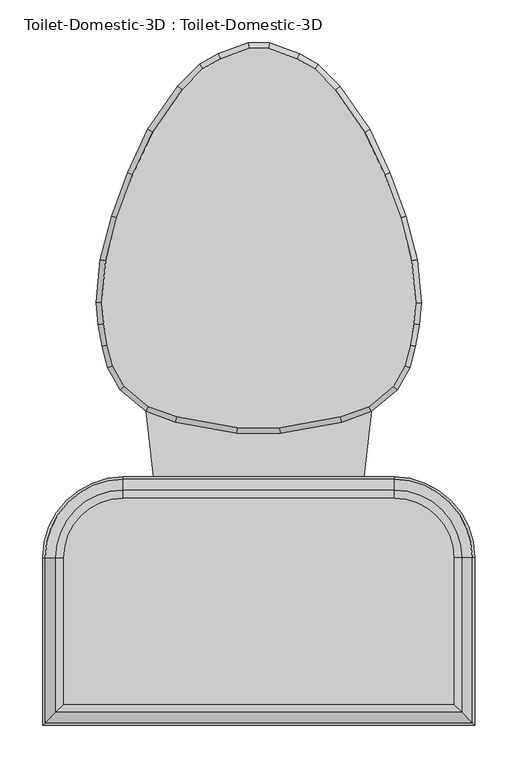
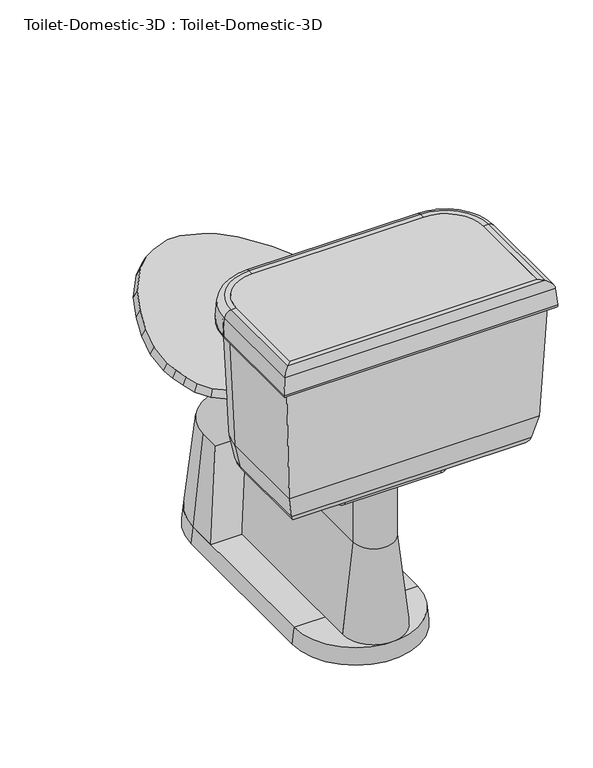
"""IFC4 building model written with IfcOpenShell, lengths in millimetres: flow terminal geometry, Toilet-Domestic-3D : Toilet-Domestic-3D."""

from ifc_helpers import new_model, si_unit, point, frame, frame_2d, origin, place, context, project, spatial, polyline, circle_curve, ellipse_curve, trimmed, segment, composite_curve, outline, extrude, faceted_brep, source, transform, mapped, element, save
from ifc_brep_helpers import plane_surface, cylinder_surface, revolved_surface, advanced_brep


def toilet_domestic_3d_toilet_domestic_3d_d5d88465(model_context):
    return source(origin(), model_context, "Body", "SolidModel", [
        advanced_brep(
        [(-117.7636364, -285.75, 0.0), (-114.3, -285.75, 31.75), (-38.1, -285.75, 31.75), (-38.1, -285.75, 0.0), (117.7636364, -285.75, 0.0), (38.1, -285.75, 0.0), (38.1, -285.75, 31.75), (114.3, -285.75, 31.75)],
        [
            (0, 1),
            (1, 2),
            (2, 3),
            (3, 0),
            (4, 5),
            (5, 6),
            (6, 7),
            (7, 4),
            (4, 0, circle_curve(frame((0.0, -285.75, 0.0), z_axis=(0.0, 0.0, -1.0), x_axis=(-1.0, 0.0, 0.0)), 117.7636364)),
            (3, 5, circle_curve(frame((0.0, -285.75, 0.0), z_axis=(0.0, 0.0, 1.0), x_axis=(-1.0, 0.0, 0.0)), 38.1)),
            (2, 6, circle_curve(frame((0.0, -285.75, 31.75), z_axis=(0.0, 0.0, 1.0), x_axis=(-1.0, 0.0, 0.0)), 38.1)),
            (1, 7, circle_curve(frame((0.0, -285.75, 31.75), z_axis=(0.0, 0.0, 1.0), x_axis=(-1.0, 0.0, 0.0)), 114.3)),
        ],
        [
            plane_surface(frame((0.0, -285.75, -304.8), z_axis=(0.0, 1.0, 0.0), x_axis=(-1.0, 0.0, 0.0))),
            plane_surface(frame((0.0, -285.75, -304.8), z_axis=(0.0, 1.0, 0.0), x_axis=(1.0, 0.0, 0.0))),
            plane_surface(frame((0.0, -285.75, 0.0), z_axis=(0.0, 0.0, -1.0), x_axis=(-1.0, 0.0, 0.0))),
            revolved_surface(polyline([(-38.1, -285.75, 0.0), (-38.1, -285.75, 31.75)]), (0.0, -285.75, -304.8), (0.0, 0.0, -1.0)),
            plane_surface(frame((0.0, -285.75, 31.75), z_axis=(0.0, 0.0, 1.0), x_axis=(-1.0, 0.0, 0.0))),
            revolved_surface(polyline([(-114.3, -285.75, 31.75), (-117.7636364, -285.75, 0.0)]), (0.0, -285.75, -304.8), (0.0, 0.0, -1.0)),
        ],
        [
            (0, [[1, 2, 3, 4]]),
            (1, [[5, 6, 7, 8]]),
            (2, [[-5, 9, -4, 10]]),
            (3, [[-6, -10, -3, 11]]),
            (4, [[-7, -11, -2, 12]]),
            (5, [[-8, -12, -1, -9]]),
        ],
    ),
        advanced_brep(
        [(-38.1, -342.9, 206.375), (-38.1, -342.9, 31.75), (-57.15, -342.9, 31.75), (38.1, -342.9, 206.375), (57.15, -342.9, 31.75), (38.1, -342.9, 31.75)],
        [
            (0, 1),
            (1, 2),
            (2, 0),
            (3, 4),
            (4, 5),
            (5, 3),
            (3, 0, circle_curve(frame((0.0, -342.9, 206.375), z_axis=(0.0, 0.0, -1.0), x_axis=(-1.0, 0.0, 0.0)), 38.1)),
            (2, 4, circle_curve(frame((0.0, -342.9, 31.75), z_axis=(0.0, 0.0, 1.0), x_axis=(-1.0, 0.0, 0.0)), 57.15)),
            (1, 5, circle_curve(frame((0.0, -342.9, 31.75), z_axis=(0.0, 0.0, 1.0), x_axis=(-1.0, 0.0, 0.0)), 38.1)),
        ],
        [
            plane_surface(frame((0.0, -342.9, 31.75), z_axis=(0.0, 1.0, 0.0), x_axis=(-1.0, 0.0, 0.0))),
            plane_surface(frame((0.0, -342.9, 31.75), z_axis=(0.0, 1.0, 0.0), x_axis=(1.0, 0.0, 0.0))),
            revolved_surface(polyline([(-38.1, -342.9, 206.375), (-57.15, -342.9, 31.75)]), (0.0, -342.9, 31.75), (0.0, 0.0, -1.0)),
            plane_surface(frame((0.0, -342.9, 31.75), z_axis=(0.0, 0.0, -1.0), x_axis=(-1.0, 0.0, 0.0))),
            revolved_surface(polyline([(-38.1, -342.9, 31.75), (-38.1, -342.9, 206.375)]), (0.0, -342.9, 31.75), (0.0, 0.0, -1.0)),
        ],
        [
            (0, [[1, 2, 3]]),
            (1, [[4, 5, 6]]),
            (2, [[-4, 7, -3, 8]]),
            (3, [[-5, -8, -2, 9]]),
            (4, [[-6, -9, -1, -7]]),
        ],
    ),
        faceted_brep([(-157.6293435, -97.472128, 400.05), (-129.0942628, -121.4159037, 400.05), (-95.7755003, -133.5429415, 400.05), (-24.844447, -146.05, 400.05), (24.844447, -146.05, 400.05), (95.7755003, -133.5429415, 400.05), (129.0942628, -121.4159037, 400.05), (157.6293435, -97.472128, 400.05), (171.060664, -73.773864, 400.05), (177.5851102, -49.4242991, 400.05), (181.9845715, -24.4737144, 400.05), (184.125744, 0.0, 400.05), (179.7950716, 49.4998127, 400.05), (166.347, 99.688699, 400.05), (148.0469602, 149.9676451, 400.05), (124.7045808, 200.0255393, 400.05), (90.0971582, 249.9125941, 400.05), (65.691017, 274.3187354, 400.05), (44.8990862, 286.3229622, 400.05), (11.5803237, 298.45, 400.05), (-11.5803237, 298.45, 400.05), (-44.8990862, 286.3229622, 400.05), (-65.691017, 274.3187354, 400.05), (-90.0971582, 249.9125941, 400.05), (-124.7045808, 200.0255393, 400.05), (-148.0469602, 149.9676451, 400.05), (-166.347, 99.688699, 400.05), (-179.7950716, 49.4998127, 400.05), (-184.125744, 0.0, 400.05), (-181.9845715, -24.4737144, 400.05), (-177.5851102, -49.4242991, 400.05), (-171.060664, -73.773864, 400.05), (-162.5887836, -101.6, 387.2181453), (-176.9845865, -76.2, 387.2181453), (-183.790496, -50.8, 387.2181453), (-188.2862441, -25.3033453, 387.2181453), (-190.5, 0.0, 387.2181453), (-186.0724883, 50.6066907, 387.2181453), (-172.4088722, 101.6, 387.2181453), (-153.9191843, 152.4, 387.2181453), (-130.2307553, 203.2, 387.2181453), (-94.9900085, 254.0, 387.2181453), (-69.5900085, 279.4, 387.2181453), (-47.5929632, 292.1, 387.2181453), (-12.7, 304.8, 387.2181453), (12.7, 304.8, 387.2181453), (47.5929632, 292.1, 387.2181453), (69.5900085, 279.4, 387.2181453), (94.9900085, 254.0, 387.2181453), (130.2307553, 203.2, 387.2181453), (153.9191843, 152.4, 387.2181453), (172.4088722, 101.6, 387.2181453), (186.0724883, 50.6066907, 387.2181453), (190.5, 0.0, 387.2181453), (188.2862441, -25.3033453, 387.2181453), (183.790496, -50.8, 387.2181453), (176.9845865, -76.2, 387.2181453), (162.5887836, -101.6, 387.2181453), (132.3182423, -127.0, 387.2181453), (97.4252791, -139.7, 387.2181453), (25.4, -152.4, 387.2181453), (-25.4, -152.4, 387.2181453), (-97.4252791, -139.7, 387.2181453), (-132.3182423, -127.0, 387.2181453)], [[[0, 1, 2, 3, 4, 5, 6, 7, 8, 9, 10, 11, 12, 13, 14, 15, 16, 17, 18, 19, 20, 21, 22, 23, 24, 25, 26, 27, 28, 29, 30, 31]], [[32, 33, 34, 35, 36, 37, 38, 39, 40, 41, 42, 43, 44, 45, 46, 47, 48, 49, 50, 51, 52, 53, 54, 55, 56, 57, 58, 59, 60, 61, 62, 63]], [[32, 0, 31, 33]], [[33, 31, 30, 34]], [[34, 30, 29, 35]], [[35, 29, 28, 36]], [[36, 28, 27, 37]], [[37, 27, 26, 38]], [[38, 26, 25, 39]], [[39, 25, 24, 40]], [[40, 24, 23, 41]], [[41, 23, 22, 42]], [[42, 22, 21, 43]], [[43, 21, 20, 44]], [[44, 20, 19, 45]], [[45, 19, 18, 46]], [[46, 18, 17, 47]], [[47, 17, 16, 48]], [[48, 16, 15, 49]], [[49, 15, 14, 50]], [[50, 14, 13, 51]], [[51, 13, 12, 52]], [[52, 12, 11, 53]], [[53, 11, 10, 54]], [[54, 10, 9, 55]], [[55, 9, 8, 56]], [[56, 8, 7, 57]], [[57, 7, 6, 58]], [[58, 6, 5, 59]], [[59, 5, 4, 60]], [[60, 4, 3, 61]], [[61, 3, 2, 62]], [[62, 2, 1, 63]], [[63, 1, 0, 32]]]),
        extrude(outline(composite_curve([segment(polyline([(228.5868869, -469.8868869), (-228.5868869, -469.8868869), (-228.5868869, -298.45)]), True, "CONTINUOUS"), segment(trimmed(circle_curve(frame_2d((-158.75, -298.45)), 69.8368869), [point((-228.5868869, -298.45))], [point((-158.75, -228.6131131))], False, "CARTESIAN"), True, "CONTINUOUS"), segment(polyline([(-158.75, -228.6131131), (158.75, -228.6131131)]), True, "CONTINUOUS"), segment(trimmed(circle_curve(frame_2d((158.75, -298.45)), 69.8368869), [point((158.75, -228.6131131))], [point((228.5868869, -298.45))], False, "CARTESIAN"), True, "CONTINUOUS"), segment(polyline([(228.5868869, -298.45), (228.5868869, -469.8868869)]), True, "CONTINUOUS")], self_intersect=False)), frame((0.0, 0.0, 654.05), z_axis=(0.0, 0.0, 1.0), x_axis=(1.0, 0.0, 0.0)), (0.0, 0.0, 1.0), 50.8),
        extrude(outline(composite_curve([segment(polyline([(-38.1, -342.9), (38.1, -342.9)]), True, "CONTINUOUS"), segment(trimmed(circle_curve(frame_2d((0.0, -342.9)), 38.1), [point((38.1, -342.9))], [point((-38.1, -342.9))], False, "CARTESIAN"), True, "CONTINUOUS")], self_intersect=False)), frame((0.0, 0.0, 206.375), z_axis=(0.0, 0.0, 1.0), x_axis=(1.0, 0.0, 0.0)), (0.0, 0.0, 1.0), 130.175),
        advanced_brep(
        [(177.8, -419.1, 387.2181453), (177.8, -298.45, 387.2181453), (177.8, -298.45, 374.65), (177.8, -419.1, 374.65), (192.8020829, -434.1020829, 387.2181453), (192.8020829, -298.45, 387.2181453), (211.4650931, -452.7650931, 402.4478636), (211.4650931, -298.45, 402.4478636), (218.7732506, -460.0732506, 438.15), (218.7732506, -298.45, 438.15), (228.5868869, -469.8868869, 654.05), (228.5868869, -298.45, 654.05), (228.5868869, -469.8868869, 704.85), (228.5868869, -298.45, 704.85), (237.91817, -479.21817, 704.85), (237.91817, -298.45, 704.85), (250.5698426, -491.8698426, 693.2568779), (250.5698426, -298.45, 693.2568779), (253.3960274, -494.6960274, 660.953439), (253.3960274, -298.45, 660.953439), (247.070191, -488.370191, 654.05), (247.070191, -298.45, 654.05), (241.3, -482.6, 654.05), (241.3, -298.45, 654.05), (231.4863636, -472.7863636, 438.15), (231.4863636, -298.45, 438.15), (222.3416824, -463.6416824, 393.4759963), (222.3416824, -298.45, 393.4759963), (197.8071664, -439.1071664, 374.65), (197.8071664, -298.45, 374.65), (158.75, -279.4, 387.2181453), (158.75, -279.4, 374.65), (158.75, -264.3979171, 387.2181453), (158.75, -245.7349069, 402.4478636), (158.75, -238.4267494, 438.15), (158.75, -228.6131131, 654.05), (158.75, -228.6131131, 704.85), (158.75, -219.28183, 704.85), (158.75, -206.6301574, 693.2568779), (158.75, -203.8039726, 660.953439), (158.75, -210.129809, 654.05), (158.75, -215.9, 654.05), (158.75, -225.7136364, 438.15), (158.75, -234.8583176, 393.4759963), (158.75, -259.3928336, 374.65), (-158.75, -279.4, 387.2181453), (-158.75, -279.4, 374.65), (-158.75, -264.3979171, 387.2181453), (-158.75, -245.7349069, 402.4478636), (-158.75, -238.4267494, 438.15), (-158.75, -228.6131131, 654.05), (-158.75, -228.6131131, 704.85), (-158.75, -219.28183, 704.85), (-158.75, -206.6301574, 693.2568779), (-158.75, -203.8039726, 660.953439), (-158.75, -210.129809, 654.05), (-158.75, -215.9, 654.05), (-158.75, -225.7136364, 438.15), (-158.75, -234.8583176, 393.4759963), (-158.75, -259.3928336, 374.65), (-177.8, -298.45, 387.2181453), (-177.8, -298.45, 374.65), (-192.8020829, -298.45, 387.2181453), (-211.4650931, -298.45, 402.4478636), (-218.7732506, -298.45, 438.15), (-228.5868869, -298.45, 654.05), (-228.5868869, -298.45, 704.85), (-237.91817, -298.45, 704.85), (-250.5698426, -298.45, 693.2568779), (-253.3960274, -298.45, 660.953439), (-247.070191, -298.45, 654.05), (-241.3, -298.45, 654.05), (-231.4863636, -298.45, 438.15), (-222.3416824, -298.45, 393.4759963), (-197.8071664, -298.45, 374.65), (-177.8, -419.1, 387.2181453), (-177.8, -419.1, 374.65), (-192.8020829, -434.1020829, 387.2181453), (-211.4650931, -452.7650931, 402.4478636), (-218.7732506, -460.0732506, 438.15), (-228.5868869, -469.8868869, 654.05), (-228.5868869, -469.8868869, 704.85), (-237.91817, -479.21817, 704.85), (-250.5698426, -491.8698426, 693.2568779), (-253.3960274, -494.6960274, 660.953439), (-247.070191, -488.370191, 654.05), (-241.3, -482.6, 654.05), (-231.4863636, -472.7863636, 438.15), (-222.3416824, -463.6416824, 393.4759963), (-197.8071664, -439.1071664, 374.65)],
        [
            (0, 1),
            (1, 2),
            (2, 3),
            (3, 0),
            (4, 5),
            (5, 1),
            (0, 4),
            (6, 7),
            (7, 5, circle_curve(frame((192.8020829, -298.45, 406.2681453), z_axis=(0.0, 1.0, 0.0), x_axis=(1.0, 0.0, 0.0)), 19.05)),
            (4, 6, ellipse_curve(frame((192.8020829, -434.1020829, 406.2681453), z_axis=(-0.7071067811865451, -0.7071067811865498, 0.0), x_axis=(-0.7071067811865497, 0.7071067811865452, 0.0)), 26.9407684, 19.05)),
            (8, 9),
            (9, 7),
            (6, 8),
            (10, 11),
            (11, 9),
            (8, 10),
            (12, 13),
            (13, 11),
            (10, 12),
            (14, 15),
            (15, 13),
            (12, 14),
            (16, 17),
            (17, 15, circle_curve(frame((237.91817, -298.45, 692.15), z_axis=(0.0, -1.0, 0.0), x_axis=(1.0, 0.0, 0.0)), 12.7)),
            (14, 16, ellipse_curve(frame((237.91817, -479.21817, 692.15), z_axis=(0.7071067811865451, 0.7071067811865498, 0.0), x_axis=(0.7071067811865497, -0.7071067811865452, 0.0)), 17.9605122, 12.7)),
            (18, 19),
            (19, 17),
            (16, 18),
            (20, 21),
            (21, 19, circle_curve(frame((247.070191, -298.45, 660.4), z_axis=(0.0, -1.0, 0.0), x_axis=(1.0, 0.0, 0.0)), 6.35)),
            (18, 20, ellipse_curve(frame((247.070191, -488.370191, 660.4), z_axis=(0.7071067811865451, 0.7071067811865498, 0.0), x_axis=(0.7071067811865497, -0.7071067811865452, 0.0)), 8.9802561, 6.35)),
            (22, 23),
            (23, 21),
            (20, 22),
            (24, 25),
            (25, 23),
            (22, 24),
            (26, 27),
            (27, 25),
            (24, 26),
            (28, 29),
            (29, 27, circle_curve(frame((197.8071664, -298.45, 400.05), z_axis=(0.0, -1.0, 0.0), x_axis=(1.0, 0.0, 0.0)), 25.4)),
            (26, 28, ellipse_curve(frame((197.8071664, -439.1071664, 400.05), z_axis=(0.7071067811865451, 0.7071067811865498, 0.0), x_axis=(0.7071067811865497, -0.7071067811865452, 0.0)), 35.9210245, 25.4)),
            (2, 29),
            (28, 3),
            (30, 31),
            (31, 2, circle_curve(frame((158.75, -298.45, 374.65), z_axis=(0.0, 0.0, -1.0), x_axis=(1.0, 0.0, 0.0)), 19.05)),
            (1, 30, circle_curve(frame((158.75, -298.45, 387.2181453), z_axis=(0.0, 0.0, 1.0), x_axis=(1.0, 0.0, 0.0)), 19.05)),
            (32, 30),
            (5, 32, circle_curve(frame((158.75, -298.45, 387.2181453), z_axis=(0.0, 0.0, 1.0), x_axis=(1.0, 0.0, 0.0)), 34.0520829)),
            (33, 32, circle_curve(frame((158.75, -264.3979171, 406.2681453), z_axis=(-1.0, 0.0, 0.0), x_axis=(0.0, 1.0, 0.0)), 19.05)),
            (7, 33, circle_curve(frame((158.75, -298.45, 402.4478636), z_axis=(0.0, 0.0, 1.0), x_axis=(1.0, 0.0, 0.0)), 52.7150931)),
            (34, 33),
            (9, 34, circle_curve(frame((158.75, -298.45, 438.15), z_axis=(0.0, 0.0, 1.0), x_axis=(1.0, 0.0, 0.0)), 60.0232506)),
            (35, 34),
            (11, 35, circle_curve(frame((158.75, -298.45, 654.05), z_axis=(0.0, 0.0, 1.0), x_axis=(1.0, 0.0, 0.0)), 69.8368869)),
            (36, 35),
            (13, 36, circle_curve(frame((158.75, -298.45, 704.85), z_axis=(0.0, 0.0, 1.0), x_axis=(1.0, 0.0, 0.0)), 69.8368869)),
            (37, 36),
            (15, 37, circle_curve(frame((158.75, -298.45, 704.85), z_axis=(0.0, 0.0, 1.0), x_axis=(1.0, 0.0, 0.0)), 79.16817)),
            (38, 37, circle_curve(frame((158.75, -219.28183, 692.15), z_axis=(1.0, 0.0, 0.0), x_axis=(0.0, 1.0, 0.0)), 12.7)),
            (17, 38, circle_curve(frame((158.75, -298.45, 693.2568779), z_axis=(0.0, 0.0, 1.0), x_axis=(1.0, 0.0, 0.0)), 91.8198426)),
            (39, 38),
            (19, 39, circle_curve(frame((158.75, -298.45, 660.953439), z_axis=(0.0, 0.0, 1.0), x_axis=(1.0, 0.0, 0.0)), 94.6460274)),
            (40, 39, circle_curve(frame((158.75, -210.129809, 660.4), z_axis=(1.0, 0.0, 0.0), x_axis=(0.0, 1.0, 0.0)), 6.35)),
            (21, 40, circle_curve(frame((158.75, -298.45, 654.05), z_axis=(0.0, 0.0, 1.0), x_axis=(1.0, 0.0, 0.0)), 88.320191)),
            (41, 40),
            (23, 41, circle_curve(frame((158.75, -298.45, 654.05), z_axis=(0.0, 0.0, 1.0), x_axis=(1.0, 0.0, 0.0)), 82.55)),
            (42, 41),
            (25, 42, circle_curve(frame((158.75, -298.45, 438.15), z_axis=(0.0, 0.0, 1.0), x_axis=(1.0, 0.0, 0.0)), 72.7363636)),
            (43, 42),
            (27, 43, circle_curve(frame((158.75, -298.45, 393.4759963), z_axis=(0.0, 0.0, 1.0), x_axis=(1.0, 0.0, 0.0)), 63.5916824)),
            (44, 43, circle_curve(frame((158.75, -259.3928336, 400.05), z_axis=(1.0, 0.0, 0.0), x_axis=(0.0, 1.0, 0.0)), 25.4)),
            (29, 44, circle_curve(frame((158.75, -298.45, 374.65), z_axis=(0.0, 0.0, 1.0), x_axis=(1.0, 0.0, 0.0)), 39.0571664)),
            (31, 44),
            (30, 45),
            (45, 46),
            (46, 31),
            (32, 47),
            (47, 45),
            (33, 48),
            (48, 47, circle_curve(frame((-158.75, -264.3979171, 406.2681453), z_axis=(-1.0, 0.0, 0.0), x_axis=(0.0, 1.0, 0.0)), 19.05)),
            (34, 49),
            (49, 48),
            (35, 50),
            (50, 49),
            (36, 51),
            (51, 50),
            (37, 52),
            (52, 51),
            (38, 53),
            (53, 52, circle_curve(frame((-158.75, -219.28183, 692.15), z_axis=(1.0, 0.0, 0.0), x_axis=(0.0, 1.0, 0.0)), 12.7)),
            (39, 54),
            (54, 53),
            (40, 55),
            (55, 54, circle_curve(frame((-158.75, -210.129809, 660.4), z_axis=(1.0, 0.0, 0.0), x_axis=(0.0, 1.0, 0.0)), 6.35)),
            (41, 56),
            (56, 55),
            (42, 57),
            (57, 56),
            (43, 58),
            (58, 57),
            (44, 59),
            (59, 58, circle_curve(frame((-158.75, -259.3928336, 400.05), z_axis=(1.0, 0.0, 0.0), x_axis=(0.0, 1.0, 0.0)), 25.4)),
            (46, 59),
            (60, 61),
            (61, 46, circle_curve(frame((-158.75, -298.45, 374.65), z_axis=(0.0, 0.0, -1.0), x_axis=(0.0, 1.0, 0.0)), 19.05)),
            (45, 60, circle_curve(frame((-158.75, -298.45, 387.2181453), z_axis=(0.0, 0.0, 1.0), x_axis=(0.0, 1.0, 0.0)), 19.05)),
            (62, 60),
            (47, 62, circle_curve(frame((-158.75, -298.45, 387.2181453), z_axis=(0.0, 0.0, 1.0), x_axis=(0.0, 1.0, 0.0)), 34.0520829)),
            (63, 62, circle_curve(frame((-192.8020829, -298.45, 406.2681453), z_axis=(0.0, -1.0, 0.0), x_axis=(-1.0, 0.0, 0.0)), 19.05)),
            (48, 63, circle_curve(frame((-158.75, -298.45, 402.4478636), z_axis=(0.0, 0.0, 1.0), x_axis=(0.0, 1.0, 0.0)), 52.7150931)),
            (64, 63),
            (49, 64, circle_curve(frame((-158.75, -298.45, 438.15), z_axis=(0.0, 0.0, 1.0), x_axis=(0.0, 1.0, 0.0)), 60.0232506)),
            (65, 64),
            (50, 65, circle_curve(frame((-158.75, -298.45, 654.05), z_axis=(0.0, 0.0, 1.0), x_axis=(0.0, 1.0, 0.0)), 69.8368869)),
            (66, 65),
            (51, 66, circle_curve(frame((-158.75, -298.45, 704.85), z_axis=(0.0, 0.0, 1.0), x_axis=(0.0, 1.0, 0.0)), 69.8368869)),
            (67, 66),
            (52, 67, circle_curve(frame((-158.75, -298.45, 704.85), z_axis=(0.0, 0.0, 1.0), x_axis=(0.0, 1.0, 0.0)), 79.16817)),
            (68, 67, circle_curve(frame((-237.91817, -298.45, 692.15), z_axis=(0.0, 1.0, 0.0), x_axis=(-1.0, 0.0, 0.0)), 12.7)),
            (53, 68, circle_curve(frame((-158.75, -298.45, 693.2568779), z_axis=(0.0, 0.0, 1.0), x_axis=(0.0, 1.0, 0.0)), 91.8198426)),
            (69, 68),
            (54, 69, circle_curve(frame((-158.75, -298.45, 660.953439), z_axis=(0.0, 0.0, 1.0), x_axis=(0.0, 1.0, 0.0)), 94.6460274)),
            (70, 69, circle_curve(frame((-247.070191, -298.45, 660.4), z_axis=(0.0, 1.0, 0.0), x_axis=(-1.0, 0.0, 0.0)), 6.35)),
            (55, 70, circle_curve(frame((-158.75, -298.45, 654.05), z_axis=(0.0, 0.0, 1.0), x_axis=(0.0, 1.0, 0.0)), 88.320191)),
            (71, 70),
            (56, 71, circle_curve(frame((-158.75, -298.45, 654.05), z_axis=(0.0, 0.0, 1.0), x_axis=(0.0, 1.0, 0.0)), 82.55)),
            (72, 71),
            (57, 72, circle_curve(frame((-158.75, -298.45, 438.15), z_axis=(0.0, 0.0, 1.0), x_axis=(0.0, 1.0, 0.0)), 72.7363636)),
            (73, 72),
            (58, 73, circle_curve(frame((-158.75, -298.45, 393.4759963), z_axis=(0.0, 0.0, 1.0), x_axis=(0.0, 1.0, 0.0)), 63.5916824)),
            (74, 73, circle_curve(frame((-197.8071664, -298.45, 400.05), z_axis=(0.0, 1.0, 0.0), x_axis=(-1.0, 0.0, 0.0)), 25.4)),
            (59, 74, circle_curve(frame((-158.75, -298.45, 374.65), z_axis=(0.0, 0.0, 1.0), x_axis=(0.0, 1.0, 0.0)), 39.0571664)),
            (61, 74),
            (60, 75),
            (75, 76),
            (76, 61),
            (62, 77),
            (77, 75),
            (63, 78),
            (78, 77, ellipse_curve(frame((-192.8020829, -434.1020829, 406.2681453), z_axis=(0.7071067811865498, -0.7071067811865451, 0.0), x_axis=(-0.7071067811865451, -0.70710678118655, 0.0)), 26.9407684, 19.05)),
            (64, 79),
            (79, 78),
            (65, 80),
            (80, 79),
            (66, 81),
            (81, 80),
            (67, 82),
            (82, 81),
            (68, 83),
            (83, 82, ellipse_curve(frame((-237.91817, -479.21817, 692.15), z_axis=(-0.7071067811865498, 0.7071067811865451, 0.0), x_axis=(0.7071067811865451, 0.70710678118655, 0.0)), 17.9605122, 12.7)),
            (69, 84),
            (84, 83),
            (70, 85),
            (85, 84, ellipse_curve(frame((-247.070191, -488.370191, 660.4), z_axis=(-0.7071067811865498, 0.7071067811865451, 0.0), x_axis=(0.7071067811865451, 0.70710678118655, 0.0)), 8.9802561, 6.35)),
            (71, 86),
            (86, 85),
            (72, 87),
            (87, 86),
            (73, 88),
            (88, 87),
            (74, 89),
            (89, 88, ellipse_curve(frame((-197.8071664, -439.1071664, 400.05), z_axis=(-0.7071067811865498, 0.7071067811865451, 0.0), x_axis=(0.7071067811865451, 0.70710678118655, 0.0)), 35.9210245, 25.4)),
            (76, 89),
            (75, 0),
            (3, 76),
            (77, 4),
            (78, 6),
            (79, 8),
            (80, 10),
            (81, 12),
            (82, 14),
            (83, 16),
            (84, 18),
            (85, 20),
            (86, 22),
            (87, 24),
            (88, 26),
            (89, 28),
        ],
        [
            plane_surface(frame((177.8, -419.1, 374.65), z_axis=(-1.0, 0.0, 0.0), x_axis=(0.0, 1.0, 0.0))),
            plane_surface(frame((177.8, -419.1, 387.2181453), z_axis=(0.0, 0.0, 1.0), x_axis=(0.0, 1.0, 0.0))),
            revolved_surface(polyline([(211.8520829, -298.45, 406.2681453), (211.8520829, -453.1520829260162, 406.2681453)]), (192.8020829, -419.1, 406.2681453), (0.0, 1.0, 0.0)),
            plane_surface(frame((211.4650931, -452.7650931, 402.4478636), z_axis=(-0.9796855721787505, 0.0, 0.2005397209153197), x_axis=(0.0, 1.0, 0.0))),
            plane_surface(frame((218.7732506, -460.0732506, 438.15), z_axis=(-0.9989685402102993, 0.0, 0.04540766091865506), x_axis=(0.0, 1.0, 0.0))),
            plane_surface(frame((228.5868869, -469.8868869, 654.05), z_axis=(-1.0, 0.0, 0.0), x_axis=(0.0, 1.0, 0.0))),
            plane_surface(frame((228.5868869, -469.8868869, 704.85), z_axis=(0.0, 0.0, 1.0), x_axis=(0.0, 1.0, 0.0))),
            cylinder_surface(frame((237.91817, -419.1, 692.15), z_axis=(0.0, -1.0, 0.0), x_axis=(1.0, 0.0, 0.0)), 12.7),
            plane_surface(frame((250.5698426, -491.8698426, 693.2568779), z_axis=(0.9961946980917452, 0.0, 0.08715574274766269), x_axis=(0.0, 1.0, 0.0))),
            cylinder_surface(frame((247.070191, -419.1, 660.4), z_axis=(0.0, -1.0, 0.0), x_axis=(1.0, 0.0, 0.0)), 6.35),
            plane_surface(frame((247.070191, -488.370191, 654.05), z_axis=(0.0, 0.0, -1.0), x_axis=(0.0, 1.0, 0.0))),
            plane_surface(frame((241.3, -482.6, 654.05), z_axis=(0.9989685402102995, 0.0, -0.04540766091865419), x_axis=(0.0, 1.0, 0.0))),
            plane_surface(frame((231.4863636, -472.7863636, 438.15), z_axis=(0.9796855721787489, 0.0, -0.20053972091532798), x_axis=(0.0, 1.0, 0.0))),
            cylinder_surface(frame((197.8071664, -419.1, 400.05), z_axis=(0.0, -1.0, 0.0), x_axis=(1.0, 0.0, 0.0)), 25.4),
            plane_surface(frame((197.8071664, -439.1071664, 374.65), z_axis=(0.0, 0.0, -1.0), x_axis=(0.0, 1.0, 0.0))),
            revolved_surface(polyline([(177.8, -298.45, 374.65), (177.8, -298.45, 387.2181453)]), (158.75, -298.45, 0.0), (0.0, 0.0, -1.0)),
            plane_surface(frame((158.75, -298.45, 387.2181453), z_axis=(0.0, 0.0, 1.0), x_axis=(1.0, 0.0, 0.0))),
            revolved_surface(trimmed(ellipse_curve(frame((192.8020829, -298.45, 406.2681453), z_axis=(0.0, -1.0, 0.0), x_axis=(1.0, 0.0, 0.0)), 19.05, 19.05), [point((192.8020829, -298.45, 387.2181453))], [point((211.4650931, -298.45, 402.4478636))], True, "CARTESIAN"), (158.75, -298.45, 0.0), (0.0, 0.0, -1.0)),
            revolved_surface(polyline([(211.4650931, -298.45, 402.4478636), (218.7732506, -298.45, 438.15)]), (158.75, -298.45, 0.0), (0.0, 0.0, -1.0)),
            revolved_surface(polyline([(218.7732506, -298.45, 438.15), (228.5868869, -298.45, 654.05)]), (158.75, -298.45, 0.0), (0.0, 0.0, -1.0)),
            revolved_surface(polyline([(228.5868869, -298.45, 654.05), (228.5868869, -298.45, 704.85)]), (158.75, -298.45, 0.0), (0.0, 0.0, -1.0)),
            plane_surface(frame((158.75, -298.45, 704.85), z_axis=(0.0, 0.0, 1.0), x_axis=(1.0, 0.0, 0.0))),
            revolved_surface(trimmed(ellipse_curve(frame((237.91817, -298.45, 692.15), z_axis=(0.0, 1.0, 0.0), x_axis=(1.0, 0.0, 0.0)), 12.7, 12.7), [point((237.91817, -298.45, 704.85))], [point((250.5698426, -298.45, 693.2568779))], True, "CARTESIAN"), (158.75, -298.45, 0.0), (0.0, 0.0, -1.0)),
            revolved_surface(polyline([(250.5698426, -298.45, 693.2568779), (253.3960274, -298.45, 660.953439)]), (158.75, -298.45, 0.0), (0.0, 0.0, -1.0)),
            revolved_surface(trimmed(ellipse_curve(frame((247.070191, -298.45, 660.4), z_axis=(0.0, 1.0, 0.0), x_axis=(1.0, 0.0, 0.0)), 6.35, 6.35), [point((253.3960274, -298.45, 660.953439))], [point((247.070191, -298.45, 654.05))], True, "CARTESIAN"), (158.75, -298.45, 0.0), (0.0, 0.0, -1.0)),
            plane_surface(frame((158.75, -298.45, 654.05), z_axis=(0.0, 0.0, -1.0), x_axis=(1.0, 0.0, 0.0))),
            revolved_surface(polyline([(241.3, -298.45, 654.05), (231.4863636, -298.45, 438.15)]), (158.75, -298.45, 0.0), (0.0, 0.0, -1.0)),
            revolved_surface(polyline([(231.4863636, -298.45, 438.15), (222.3416824, -298.45, 393.4759963)]), (158.75, -298.45, 0.0), (0.0, 0.0, -1.0)),
            revolved_surface(trimmed(ellipse_curve(frame((197.8071664, -298.45, 400.05), z_axis=(0.0, 1.0, 0.0), x_axis=(1.0, 0.0, 0.0)), 25.4, 25.4), [point((222.3416824, -298.45, 393.4759963))], [point((197.8071664, -298.45, 374.65))], True, "CARTESIAN"), (158.75, -298.45, 0.0), (0.0, 0.0, -1.0)),
            plane_surface(frame((158.75, -298.45, 374.65), z_axis=(0.0, 0.0, -1.0), x_axis=(1.0, 0.0, 0.0))),
            plane_surface(frame((158.75, -279.4, 374.65), z_axis=(0.0, -1.0, 0.0), x_axis=(-1.0, 0.0, 0.0))),
            plane_surface(frame((158.75, -279.4, 387.2181453), z_axis=(0.0, 0.0, 1.0), x_axis=(-1.0, 0.0, 0.0))),
            revolved_surface(polyline([(-158.75, -245.34791709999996, 406.2681453), (158.75, -245.34791709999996, 406.2681453)]), (158.75, -264.3979171, 406.2681453), (-1.0, 0.0, 0.0)),
            plane_surface(frame((158.75, -245.7349069, 402.4478636), z_axis=(0.0, -0.9796855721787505, 0.2005397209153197), x_axis=(-1.0, 0.0, 0.0))),
            plane_surface(frame((158.75, -238.4267494, 438.15), z_axis=(0.0, -0.9989685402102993, 0.04540766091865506), x_axis=(-1.0, 0.0, 0.0))),
            plane_surface(frame((158.75, -228.6131131, 654.05), z_axis=(0.0, -1.0, 0.0), x_axis=(-1.0, 0.0, 0.0))),
            plane_surface(frame((158.75, -228.6131131, 704.85), z_axis=(0.0, 0.0, 1.0), x_axis=(-1.0, 0.0, 0.0))),
            cylinder_surface(frame((158.75, -219.28183, 692.15), z_axis=(1.0, 0.0, 0.0), x_axis=(0.0, 1.0, 0.0)), 12.7),
            plane_surface(frame((158.75, -206.6301574, 693.2568779), z_axis=(0.0, 0.9961946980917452, 0.08715574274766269), x_axis=(-1.0, 0.0, 0.0))),
            cylinder_surface(frame((158.75, -210.129809, 660.4), z_axis=(1.0, 0.0, 0.0), x_axis=(0.0, 1.0, 0.0)), 6.35),
            plane_surface(frame((158.75, -210.129809, 654.05), z_axis=(0.0, 0.0, -1.0), x_axis=(-1.0, 0.0, 0.0))),
            plane_surface(frame((158.75, -215.9, 654.05), z_axis=(0.0, 0.9989685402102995, -0.04540766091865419), x_axis=(-1.0, 0.0, 0.0))),
            plane_surface(frame((158.75, -225.7136364, 438.15), z_axis=(0.0, 0.9796855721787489, -0.20053972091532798), x_axis=(-1.0, 0.0, 0.0))),
            cylinder_surface(frame((158.75, -259.3928336, 400.05), z_axis=(1.0, 0.0, 0.0), x_axis=(0.0, 1.0, 0.0)), 25.4),
            plane_surface(frame((158.75, -259.3928336, 374.65), z_axis=(0.0, 0.0, -1.0), x_axis=(-1.0, 0.0, 0.0))),
            revolved_surface(polyline([(-158.75, -279.4, 374.65), (-158.75, -279.4, 387.2181453)]), (-158.75, -298.45, 0.0), (0.0, 0.0, -1.0)),
            plane_surface(frame((-158.75, -298.45, 387.2181453), z_axis=(0.0, 0.0, 1.0), x_axis=(0.0, 1.0, 0.0))),
            revolved_surface(trimmed(ellipse_curve(frame((-158.75, -264.3979171, 406.2681453), z_axis=(1.0, 0.0, 0.0), x_axis=(0.0, 1.0, 0.0)), 19.05, 19.05), [point((-158.75, -264.3979171, 387.2181453))], [point((-158.75, -245.7349069, 402.4478636))], True, "CARTESIAN"), (-158.75, -298.45, 0.0), (0.0, 0.0, -1.0)),
            revolved_surface(polyline([(-158.75, -245.7349069, 402.4478636), (-158.75, -238.4267494, 438.15)]), (-158.75, -298.45, 0.0), (0.0, 0.0, -1.0)),
            revolved_surface(polyline([(-158.75, -238.4267494, 438.15), (-158.75, -228.6131131, 654.05)]), (-158.75, -298.45, 0.0), (0.0, 0.0, -1.0)),
            revolved_surface(polyline([(-158.75, -228.6131131, 654.05), (-158.75, -228.6131131, 704.85)]), (-158.75, -298.45, 0.0), (0.0, 0.0, -1.0)),
            plane_surface(frame((-158.75, -298.45, 704.85), z_axis=(0.0, 0.0, 1.0), x_axis=(0.0, 1.0, 0.0))),
            revolved_surface(trimmed(ellipse_curve(frame((-158.75, -219.28183, 692.15), z_axis=(-1.0, 0.0, 0.0), x_axis=(0.0, 1.0, 0.0)), 12.7, 12.7), [point((-158.75, -219.28183, 704.85))], [point((-158.75, -206.6301574, 693.2568779))], True, "CARTESIAN"), (-158.75, -298.45, 0.0), (0.0, 0.0, -1.0)),
            revolved_surface(polyline([(-158.75, -206.6301574, 693.2568779), (-158.75, -203.8039726, 660.953439)]), (-158.75, -298.45, 0.0), (0.0, 0.0, -1.0)),
            revolved_surface(trimmed(ellipse_curve(frame((-158.75, -210.129809, 660.4), z_axis=(-1.0, 0.0, 0.0), x_axis=(0.0, 1.0, 0.0)), 6.35, 6.35), [point((-158.75, -203.8039726, 660.953439))], [point((-158.75, -210.129809, 654.05))], True, "CARTESIAN"), (-158.75, -298.45, 0.0), (0.0, 0.0, -1.0)),
            plane_surface(frame((-158.75, -298.45, 654.05), z_axis=(0.0, 0.0, -1.0), x_axis=(0.0, 1.0, 0.0))),
            revolved_surface(polyline([(-158.75, -215.9, 654.05), (-158.75, -225.7136364, 438.15)]), (-158.75, -298.45, 0.0), (0.0, 0.0, -1.0)),
            revolved_surface(polyline([(-158.75, -225.7136364, 438.15), (-158.75, -234.8583176, 393.4759963)]), (-158.75, -298.45, 0.0), (0.0, 0.0, -1.0)),
            revolved_surface(trimmed(ellipse_curve(frame((-158.75, -259.3928336, 400.05), z_axis=(-1.0, 0.0, 0.0), x_axis=(0.0, 1.0, 0.0)), 25.4, 25.4), [point((-158.75, -234.8583176, 393.4759963))], [point((-158.75, -259.3928336, 374.65))], True, "CARTESIAN"), (-158.75, -298.45, 0.0), (0.0, 0.0, -1.0)),
            plane_surface(frame((-158.75, -298.45, 374.65), z_axis=(0.0, 0.0, -1.0), x_axis=(0.0, 1.0, 0.0))),
            plane_surface(frame((-177.8, -298.45, 374.65), z_axis=(1.0, 0.0, 0.0), x_axis=(0.0, -1.0, 0.0))),
            plane_surface(frame((-177.8, -298.45, 387.2181453), z_axis=(0.0, 0.0, 1.0), x_axis=(0.0, -1.0, 0.0))),
            revolved_surface(polyline([(-211.8520829, -453.15208292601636, 406.2681453), (-211.8520829, -298.45, 406.2681453)]), (-192.8020829, -298.45, 406.2681453), (0.0, -1.0, 0.0)),
            plane_surface(frame((-211.4650931, -298.45, 402.4478636), z_axis=(0.9796855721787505, 0.0, 0.2005397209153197), x_axis=(0.0, -1.0, 0.0))),
            plane_surface(frame((-218.7732506, -298.45, 438.15), z_axis=(0.9989685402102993, 0.0, 0.04540766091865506), x_axis=(0.0, -1.0, 0.0))),
            plane_surface(frame((-228.5868869, -298.45, 654.05), z_axis=(1.0, 0.0, 0.0), x_axis=(0.0, -1.0, 0.0))),
            plane_surface(frame((-228.5868869, -298.45, 704.85), z_axis=(0.0, 0.0, 1.0), x_axis=(0.0, -1.0, 0.0))),
            cylinder_surface(frame((-237.91817, -298.45, 692.15), z_axis=(0.0, 1.0, 0.0), x_axis=(-1.0, 0.0, 0.0)), 12.7),
            plane_surface(frame((-250.5698426, -298.45, 693.2568779), z_axis=(-0.9961946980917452, 0.0, 0.08715574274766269), x_axis=(0.0, -1.0, 0.0))),
            cylinder_surface(frame((-247.070191, -298.45, 660.4), z_axis=(0.0, 1.0, 0.0), x_axis=(-1.0, 0.0, 0.0)), 6.35),
            plane_surface(frame((-247.070191, -298.45, 654.05), z_axis=(0.0, 0.0, -1.0), x_axis=(0.0, -1.0, 0.0))),
            plane_surface(frame((-241.3, -298.45, 654.05), z_axis=(-0.9989685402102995, 0.0, -0.04540766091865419), x_axis=(0.0, -1.0, 0.0))),
            plane_surface(frame((-231.4863636, -298.45, 438.15), z_axis=(-0.9796855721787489, 0.0, -0.20053972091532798), x_axis=(0.0, -1.0, 0.0))),
            cylinder_surface(frame((-197.8071664, -298.45, 400.05), z_axis=(0.0, 1.0, 0.0), x_axis=(-1.0, 0.0, 0.0)), 25.4),
            plane_surface(frame((-197.8071664, -298.45, 374.65), z_axis=(0.0, 0.0, -1.0), x_axis=(0.0, -1.0, 0.0))),
            plane_surface(frame((-177.8, -419.1, 374.65), z_axis=(0.0, 1.0, 0.0), x_axis=(1.0, 0.0, 0.0))),
            plane_surface(frame((-177.8, -419.1, 387.2181453), z_axis=(0.0, 0.0, 1.0), x_axis=(1.0, 0.0, 0.0))),
            revolved_surface(polyline([(211.85208292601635, -453.15208290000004, 406.2681453), (-211.85208292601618, -453.15208290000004, 406.2681453)]), (-177.8, -434.1020829, 406.2681453), (1.0, 0.0, 0.0)),
            plane_surface(frame((-211.4650931, -452.7650931, 402.4478636), z_axis=(0.0, 0.9796855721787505, 0.2005397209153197), x_axis=(1.0, 0.0, 0.0))),
            plane_surface(frame((-218.7732506, -460.0732506, 438.15), z_axis=(0.0, 0.9989685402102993, 0.04540766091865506), x_axis=(1.0, 0.0, 0.0))),
            plane_surface(frame((-228.5868869, -469.8868869, 654.05), z_axis=(0.0, 1.0, 0.0), x_axis=(1.0, 0.0, 0.0))),
            plane_surface(frame((-228.5868869, -469.8868869, 704.85), z_axis=(0.0, 0.0, 1.0), x_axis=(1.0, 0.0, 0.0))),
            cylinder_surface(frame((-177.8, -479.21817, 692.15), z_axis=(-1.0, 0.0, 0.0), x_axis=(0.0, -1.0, 0.0)), 12.7),
            plane_surface(frame((-250.5698426, -491.8698426, 693.2568779), z_axis=(0.0, -0.9961946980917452, 0.08715574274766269), x_axis=(1.0, 0.0, 0.0))),
            cylinder_surface(frame((-177.8, -488.370191, 660.4), z_axis=(-1.0, 0.0, 0.0), x_axis=(0.0, -1.0, 0.0)), 6.35),
            plane_surface(frame((-247.070191, -488.370191, 654.05), z_axis=(0.0, 0.0, -1.0), x_axis=(1.0, 0.0, 0.0))),
            plane_surface(frame((-241.3, -482.6, 654.05), z_axis=(0.0, -0.9989685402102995, -0.04540766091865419), x_axis=(1.0, 0.0, 0.0))),
            plane_surface(frame((-231.4863636, -472.7863636, 438.15), z_axis=(0.0, -0.9796855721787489, -0.20053972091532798), x_axis=(1.0, 0.0, 0.0))),
            cylinder_surface(frame((-177.8, -439.1071664, 400.05), z_axis=(-1.0, 0.0, 0.0), x_axis=(0.0, -1.0, 0.0)), 25.4),
            plane_surface(frame((-197.8071664, -439.1071664, 374.65), z_axis=(0.0, 0.0, -1.0), x_axis=(1.0, 0.0, 0.0))),
        ],
        [
            (0, [[1, 2, 3, 4]]),
            (1, [[5, 6, -1, 7]]),
            (2, [[8, 9, -5, 10]]),
            (3, [[11, 12, -8, 13]]),
            (4, [[14, 15, -11, 16]]),
            (5, [[17, 18, -14, 19]]),
            (6, [[20, 21, -17, 22]]),
            (7, [[23, 24, -20, 25]]),
            (8, [[26, 27, -23, 28]]),
            (9, [[29, 30, -26, 31]]),
            (10, [[32, 33, -29, 34]]),
            (11, [[35, 36, -32, 37]]),
            (12, [[38, 39, -35, 40]]),
            (13, [[41, 42, -38, 43]]),
            (14, [[-3, 44, -41, 45]]),
            (15, [[46, 47, -2, 48]]),
            (16, [[49, -48, -6, 50]]),
            (17, [[51, -50, -9, 52]]),
            (18, [[53, -52, -12, 54]]),
            (19, [[55, -54, -15, 56]]),
            (20, [[57, -56, -18, 58]]),
            (21, [[59, -58, -21, 60]]),
            (22, [[61, -60, -24, 62]]),
            (23, [[63, -62, -27, 64]]),
            (24, [[65, -64, -30, 66]]),
            (25, [[67, -66, -33, 68]]),
            (26, [[69, -68, -36, 70]]),
            (27, [[71, -70, -39, 72]]),
            (28, [[73, -72, -42, 74]]),
            (29, [[75, -74, -44, -47]]),
            (30, [[76, 77, 78, -46]]),
            (31, [[79, 80, -76, -49]]),
            (32, [[81, 82, -79, -51]]),
            (33, [[83, 84, -81, -53]]),
            (34, [[85, 86, -83, -55]]),
            (35, [[87, 88, -85, -57]]),
            (36, [[89, 90, -87, -59]]),
            (37, [[91, 92, -89, -61]]),
            (38, [[93, 94, -91, -63]]),
            (39, [[95, 96, -93, -65]]),
            (40, [[97, 98, -95, -67]]),
            (41, [[99, 100, -97, -69]]),
            (42, [[101, 102, -99, -71]]),
            (43, [[103, 104, -101, -73]]),
            (44, [[-78, 105, -103, -75]]),
            (45, [[106, 107, -77, 108]]),
            (46, [[109, -108, -80, 110]]),
            (47, [[111, -110, -82, 112]]),
            (48, [[113, -112, -84, 114]]),
            (49, [[115, -114, -86, 116]]),
            (50, [[117, -116, -88, 118]]),
            (51, [[119, -118, -90, 120]]),
            (52, [[121, -120, -92, 122]]),
            (53, [[123, -122, -94, 124]]),
            (54, [[125, -124, -96, 126]]),
            (55, [[127, -126, -98, 128]]),
            (56, [[129, -128, -100, 130]]),
            (57, [[131, -130, -102, 132]]),
            (58, [[133, -132, -104, 134]]),
            (59, [[135, -134, -105, -107]]),
            (60, [[136, 137, 138, -106]]),
            (61, [[139, 140, -136, -109]]),
            (62, [[141, 142, -139, -111]]),
            (63, [[143, 144, -141, -113]]),
            (64, [[145, 146, -143, -115]]),
            (65, [[147, 148, -145, -117]]),
            (66, [[149, 150, -147, -119]]),
            (67, [[151, 152, -149, -121]]),
            (68, [[153, 154, -151, -123]]),
            (69, [[155, 156, -153, -125]]),
            (70, [[157, 158, -155, -127]]),
            (71, [[159, 160, -157, -129]]),
            (72, [[161, 162, -159, -131]]),
            (73, [[163, 164, -161, -133]]),
            (74, [[-138, 165, -163, -135]]),
            (75, [[166, -4, 167, -137]]),
            (76, [[168, -7, -166, -140]]),
            (77, [[169, -10, -168, -142]]),
            (78, [[170, -13, -169, -144]]),
            (79, [[171, -16, -170, -146]]),
            (80, [[172, -19, -171, -148]]),
            (81, [[173, -22, -172, -150]]),
            (82, [[174, -25, -173, -152]]),
            (83, [[175, -28, -174, -154]]),
            (84, [[176, -31, -175, -156]]),
            (85, [[177, -34, -176, -158]]),
            (86, [[178, -37, -177, -160]]),
            (87, [[179, -40, -178, -162]]),
            (88, [[180, -43, -179, -164]]),
            (89, [[-167, -45, -180, -165]]),
        ],
    ),
        extrude(outline(composite_curve([segment(polyline([(-25.4, -152.4), (0.0, -152.4), (25.4, -152.4), (97.4252791, -139.7), (132.3182423, -127.0), (101.4824733, -395.1508638)]), True, "CONTINUOUS"), segment(trimmed(circle_curve(frame_2d((88.8656197, -393.7)), 12.7), [point((101.4824733, -395.1508638))], [point((88.8656197, -406.4))], False, "CARTESIAN"), True, "CONTINUOUS"), segment(polyline([(88.8656197, -406.4), (-88.8656197, -406.4)]), True, "CONTINUOUS"), segment(trimmed(circle_curve(frame_2d((-88.8656197, -393.7)), 12.7), [point((-88.8656197, -406.4))], [point((-101.4824733, -395.1508638))], False, "CARTESIAN"), True, "CONTINUOUS"), segment(polyline([(-101.4824733, -395.1508638), (-132.3182423, -127.0), (-97.4252791, -139.7), (-25.4, -152.4)]), True, "CONTINUOUS")], self_intersect=False)), frame((0.0, 0.0, 336.55), z_axis=(0.0, 0.0, 1.0), x_axis=(1.0, 0.0, 0.0)), (0.0, 0.0, 1.0), 25.4),
        extrude(outline(polyline([(-139.7, 264.5247209), (-127.0, 229.6317577), (-107.4852632, 206.375), (-342.9, 206.375), (-342.9, 336.55), (-152.4, 336.55), (-139.7, 264.5247209)])), frame((-38.1, 0.0, 0.0), z_axis=(1.0, 0.0, 0.0), x_axis=(0.0, 1.0, 0.0)), (0.0, 0.0, 1.0), 76.2),
        advanced_brep(
        [(-117.7636364, -285.75, 0.0), (-38.1, -285.75, 0.0), (-38.1, -285.75, 31.75), (-114.3, -285.75, 31.75), (-114.3, 38.0999951, 31.75), (-117.7636364, 38.0999951, 0.0), (-38.1, 38.0999951, 31.75), (-38.1, 38.0999951, 0.0), (114.2999707, 38.0999951, 31.75), (117.7636071, 38.0999951, 0.0), (38.0999707, 38.0999951, 31.75), (38.0999707, 38.0999951, 0.0), (117.7636071, -285.6681634, 0.0), (114.2999707, -285.6681634, 31.75), (38.0999707, -285.6681634, 31.75), (38.0999707, -285.6681634, 0.0)],
        [
            (0, 1),
            (1, 2),
            (2, 3),
            (3, 0),
            (3, 4),
            (4, 5),
            (5, 0),
            (2, 6),
            (6, 4),
            (1, 7),
            (7, 6),
            (5, 7),
            (8, 9),
            (9, 5, circle_curve(frame((-1.46e-05, 38.0999951, 0.0), z_axis=(0.0, 0.0, 1.0), x_axis=(-1.0, 0.0, 0.0)), 117.7636217)),
            (4, 8, circle_curve(frame((-1.46e-05, 38.0999951, 31.75), z_axis=(0.0, 0.0, -1.0), x_axis=(-1.0, 0.0, 0.0)), 114.2999854)),
            (10, 8),
            (6, 10, circle_curve(frame((-1.46e-05, 38.0999951, 31.75), z_axis=(0.0, 0.0, -1.0), x_axis=(-1.0, 0.0, 0.0)), 38.0999854)),
            (11, 10),
            (7, 11, circle_curve(frame((-1.46e-05, 38.0999951, 0.0), z_axis=(0.0, 0.0, -1.0), x_axis=(-1.0, 0.0, 0.0)), 38.0999854)),
            (9, 11),
            (12, 13),
            (13, 14),
            (14, 15),
            (15, 12),
            (8, 13),
            (12, 9),
            (10, 14),
            (11, 15),
        ],
        [
            plane_surface(frame((-196.85, -285.75, 0.0), z_axis=(0.0, -1.0, 0.0), x_axis=(0.0, 0.0, -1.0))),
            plane_surface(frame((-117.7636364, -285.75, 0.0), z_axis=(-0.9941021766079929, 0.0, 0.10844751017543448), x_axis=(0.0, 1.0, 0.0))),
            plane_surface(frame((-114.3, -285.75, 31.75), z_axis=(0.0, 0.0, 1.0), x_axis=(0.0, 1.0, 0.0))),
            plane_surface(frame((-38.1, -285.75, 31.75), z_axis=(1.0, 0.0, 0.0), x_axis=(0.0, 1.0, 0.0))),
            plane_surface(frame((-38.1, -285.75, 0.0), z_axis=(0.0, 0.0, -1.0), x_axis=(0.0, 1.0, 0.0))),
            revolved_surface(polyline([(-117.7636364, 38.0999951, 0.0), (-114.3, 38.0999951, 31.75)]), (-1.46e-05, 38.0999951, 0.0), (0.0, 0.0, 1.0)),
            plane_surface(frame((-1.46e-05, 38.0999951, 31.75), z_axis=(0.0, 0.0, 1.0), x_axis=(-1.0, 0.0, 0.0))),
            revolved_surface(polyline([(-38.1, 38.0999951, 31.75), (-38.1, 38.0999951, 0.0)]), (-1.46e-05, 38.0999951, 0.0), (0.0, 0.0, 1.0)),
            plane_surface(frame((-1.46e-05, 38.0999951, 0.0), z_axis=(0.0, 0.0, -1.0), x_axis=(-1.0, 0.0, 0.0))),
            plane_surface(frame((31.7499707, -285.6681634, 0.0), z_axis=(0.0, -1.0, 0.0), x_axis=(0.0, 0.0, 1.0))),
            plane_surface(frame((117.7636071, 38.0999951, 0.0), z_axis=(0.9941021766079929, 0.0, 0.10844751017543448), x_axis=(0.0, -1.0, 0.0))),
            plane_surface(frame((114.2999707, 38.0999951, 31.75), z_axis=(0.0, 0.0, 1.0), x_axis=(0.0, -1.0, 0.0))),
            plane_surface(frame((38.0999707, 38.0999951, 31.75), z_axis=(-1.0, 0.0, 0.0), x_axis=(0.0, -1.0, 0.0))),
            plane_surface(frame((38.0999707, 38.0999951, 0.0), z_axis=(0.0, 0.0, -1.0), x_axis=(0.0, -1.0, 0.0))),
        ],
        [
            (0, [[1, 2, 3, 4]]),
            (1, [[5, 6, 7, -4]]),
            (2, [[8, 9, -5, -3]]),
            (3, [[10, 11, -8, -2]]),
            (4, [[-7, 12, -10, -1]]),
            (5, [[13, 14, -6, 15]]),
            (6, [[16, -15, -9, 17]]),
            (7, [[18, -17, -11, 19]]),
            (8, [[20, -19, -12, -14]]),
            (9, [[21, 22, 23, 24]]),
            (10, [[25, -21, 26, -13]]),
            (11, [[27, -22, -25, -16]]),
            (12, [[28, -23, -27, -18]]),
            (13, [[-26, -24, -28, -20]]),
        ],
    ),
        advanced_brep(
        [(-57.15, -342.9, 31.75), (-38.1, -342.9, 31.75), (-38.1, -342.9, 206.375), (-38.1, 0.0, 206.375), (-57.15, -19.05, 31.75), (-38.1, 0.0, 31.75), (-95.25, 0.0, 206.375), (-114.3, -19.05, 31.75), (-95.25, 0.0, 31.75), (-95.25, 38.1, 206.375), (-114.3, 38.1, 31.75), (-95.25, 38.1, 31.75), (95.25, 38.1, 206.375), (114.3, 38.1, 31.75), (95.25, 38.1, 31.75), (95.25, 0.0, 206.375), (114.3, -19.05, 31.75), (95.25, 0.0, 31.75), (38.1, 0.0, 206.375), (57.15, -19.05, 31.75), (38.1, 0.0, 31.75), (57.15, -342.9, 31.75), (38.1, -342.9, 206.375), (38.1, -342.9, 31.75)],
        [
            (0, 1),
            (1, 2),
            (2, 0),
            (2, 3),
            (3, 4),
            (4, 0),
            (1, 5),
            (5, 3),
            (4, 5),
            (3, 6),
            (6, 7),
            (7, 4),
            (5, 8),
            (8, 6),
            (7, 8),
            (6, 9),
            (9, 10),
            (10, 7),
            (8, 11),
            (11, 9),
            (10, 11),
            (12, 13),
            (13, 10, circle_curve(frame((0.0, 38.1, 31.75), z_axis=(0.0, 0.0, 1.0), x_axis=(-1.0, 0.0, 0.0)), 114.3)),
            (9, 12, circle_curve(frame((0.0, 38.1, 206.375), z_axis=(0.0, 0.0, -1.0), x_axis=(-1.0, 0.0, 0.0)), 95.25)),
            (14, 12),
            (11, 14, circle_curve(frame((0.0, 38.1, 31.75), z_axis=(0.0, 0.0, -1.0), x_axis=(-1.0, 0.0, 0.0)), 95.25)),
            (13, 14),
            (12, 15),
            (15, 16),
            (16, 13),
            (14, 17),
            (17, 15),
            (16, 17),
            (15, 18),
            (18, 19),
            (19, 16),
            (17, 20),
            (20, 18),
            (19, 20),
            (21, 22),
            (22, 23),
            (23, 21),
            (18, 22),
            (21, 19),
            (20, 23),
        ],
        [
            plane_surface(frame((-244.475, -342.9, 0.0), z_axis=(0.0, -1.0, 0.0), x_axis=(0.0, 0.0, -1.0))),
            plane_surface(frame((-57.15, -342.9, 31.75), z_axis=(-0.9941021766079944, 0.0, 0.10844751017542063), x_axis=(0.0, 1.0, 0.0))),
            plane_surface(frame((-38.1, -342.9, 206.375), z_axis=(1.0, 0.0, 0.0), x_axis=(0.0, 1.0, 0.0))),
            plane_surface(frame((-38.1, -342.9, 31.75), z_axis=(0.0, 0.0, -1.0), x_axis=(0.0, 1.0, 0.0))),
            plane_surface(frame((-57.15, -19.05, 31.75), z_axis=(0.0, -0.9941021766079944, 0.10844751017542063), x_axis=(-1.0, 0.0, 0.0))),
            plane_surface(frame((-38.1, 0.0, 206.375), z_axis=(0.0, 1.0, 0.0), x_axis=(-1.0, 0.0, 0.0))),
            plane_surface(frame((-38.1, 0.0, 31.75), z_axis=(0.0, 0.0, -1.0), x_axis=(-1.0, 0.0, 0.0))),
            plane_surface(frame((-114.3, -19.05, 31.75), z_axis=(-0.9941021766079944, 0.0, 0.10844751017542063), x_axis=(0.0, 1.0, 0.0))),
            plane_surface(frame((-95.25, 0.0, 206.375), z_axis=(1.0, 0.0, 0.0), x_axis=(0.0, 1.0, 0.0))),
            plane_surface(frame((-95.25, 0.0, 31.75), z_axis=(0.0, 0.0, -1.0), x_axis=(0.0, 1.0, 0.0))),
            revolved_surface(polyline([(-114.3, 38.1, 31.75), (-95.25, 38.1, 206.375)]), (0.0, 38.1, 0.0), (0.0, 0.0, 1.0)),
            revolved_surface(polyline([(-95.25, 38.1, 206.375), (-95.25, 38.1, 31.75)]), (0.0, 38.1, 0.0), (0.0, 0.0, 1.0)),
            plane_surface(frame((0.0, 38.1, 31.75), z_axis=(0.0, 0.0, -1.0), x_axis=(-1.0, 0.0, 0.0))),
            plane_surface(frame((114.3, 38.1, 31.75), z_axis=(0.9941021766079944, 0.0, 0.10844751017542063), x_axis=(0.0, -1.0, 0.0))),
            plane_surface(frame((95.25, 38.1, 206.375), z_axis=(-1.0, 0.0, 0.0), x_axis=(0.0, -1.0, 0.0))),
            plane_surface(frame((95.25, 38.1, 31.75), z_axis=(0.0, 0.0, -1.0), x_axis=(0.0, -1.0, 0.0))),
            plane_surface(frame((114.3, -19.05, 31.75), z_axis=(0.0, -0.9941021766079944, 0.10844751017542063), x_axis=(-1.0, 0.0, 0.0))),
            plane_surface(frame((95.25, 0.0, 206.375), z_axis=(0.0, 1.0, 0.0), x_axis=(-1.0, 0.0, 0.0))),
            plane_surface(frame((95.25, 0.0, 31.75), z_axis=(0.0, 0.0, -1.0), x_axis=(-1.0, 0.0, 0.0))),
            plane_surface(frame((-168.275, -342.9, 0.0), z_axis=(0.0, -1.0, 0.0), x_axis=(0.0, 0.0, 1.0))),
            plane_surface(frame((57.15, -19.05, 31.75), z_axis=(0.9941021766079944, 0.0, 0.10844751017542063), x_axis=(0.0, -1.0, 0.0))),
            plane_surface(frame((38.1, 0.0, 206.375), z_axis=(-1.0, 0.0, 0.0), x_axis=(0.0, -1.0, 0.0))),
            plane_surface(frame((38.1, 0.0, 31.75), z_axis=(0.0, 0.0, -1.0), x_axis=(0.0, -1.0, 0.0))),
        ],
        [
            (0, [[1, 2, 3]]),
            (1, [[4, 5, 6, -3]]),
            (2, [[7, 8, -4, -2]]),
            (3, [[-6, 9, -7, -1]]),
            (4, [[10, 11, 12, -5]]),
            (5, [[13, 14, -10, -8]]),
            (6, [[-12, 15, -13, -9]]),
            (7, [[16, 17, 18, -11]]),
            (8, [[19, 20, -16, -14]]),
            (9, [[-18, 21, -19, -15]]),
            (10, [[22, 23, -17, 24]]),
            (11, [[25, -24, -20, 26]]),
            (12, [[27, -26, -21, -23]]),
            (13, [[28, 29, 30, -22]]),
            (14, [[31, 32, -28, -25]]),
            (15, [[-30, 33, -31, -27]]),
            (16, [[34, 35, 36, -29]]),
            (17, [[37, 38, -34, -32]]),
            (18, [[-36, 39, -37, -33]]),
            (19, [[40, 41, 42]]),
            (20, [[43, -40, 44, -35]]),
            (21, [[45, -41, -43, -38]]),
            (22, [[-44, -42, -45, -39]]),
        ],
    ),
    ])


if __name__ == "__main__":
    model = new_model("IFC4")
    model_context = context("Model", 3, world=origin())
    ifc_project = project(units=[si_unit("LENGTHUNIT", "METRE", prefix="MILLI")], contexts=[model_context])
    site = spatial("IfcSite", under=ifc_project)
    building = spatial("IfcBuilding", under=site)
    placement = place(None, origin())
    toilet_domestic_3d_toilet_domestic_3d_shape = toilet_domestic_3d_toilet_domestic_3d_d5d88465(model_context)
    element("IfcFlowTerminal", 1, ObjectType="Toilet-Domestic-3D : Toilet-Domestic-3D", at=placement, inside=building, context=model_context, shape_type="MappedRepresentation", body=[
        mapped(toilet_domestic_3d_toilet_domestic_3d_shape, transform((0.0, 0.0, 0.0), x_axis=(1.0, 0.0, 0.0), y_axis=(0.0, 1.0, 0.0), z_axis=(0.0, 0.0, 1.0))),
    ])
    save(model, "model.ifc")
